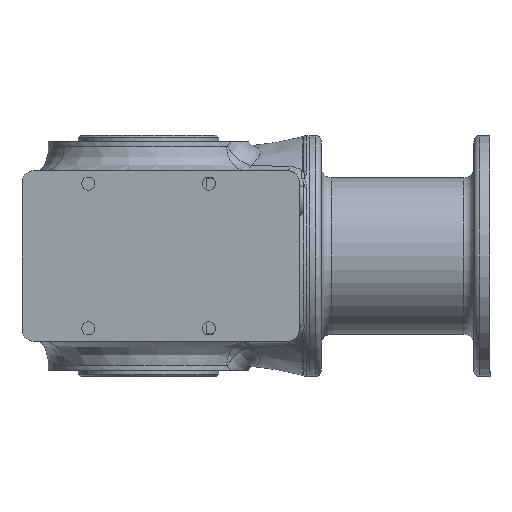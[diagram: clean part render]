
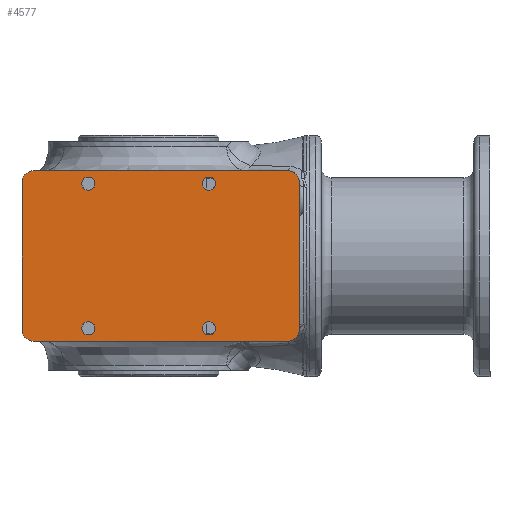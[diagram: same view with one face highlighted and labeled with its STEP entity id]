
A CAD part, front view. The second image highlights one B-rep face of the part: STEP entity #4577.
In plain terms, the highlighted planar face has unit normal (0, -1, 0).
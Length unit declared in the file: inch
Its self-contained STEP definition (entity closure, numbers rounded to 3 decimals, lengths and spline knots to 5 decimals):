
#156=LINE('',#9129,#253);
#176=LINE('',#11527,#273);
#177=LINE('',#11529,#274);
#178=LINE('',#11530,#275);
#253=VECTOR('',#5472,4.96063);
#273=VECTOR('',#5710,2.87402);
#274=VECTOR('',#5713,2.87402);
#275=VECTOR('',#5714,4.96063);
#604=PLANE('',#4952);
#706=FACE_BOUND('',#1338,.T.);
#707=FACE_BOUND('',#1339,.T.);
#708=FACE_BOUND('',#1340,.T.);
#709=FACE_BOUND('',#1341,.T.);
#980=FACE_OUTER_BOUND('',#1337,.T.);
#1337=EDGE_LOOP('',(#3517,#3518,#3519,#3520,#3521,#3522,#3523,#3524));
#1338=EDGE_LOOP('',(#3525));
#1339=EDGE_LOOP('',(#3526));
#1340=EDGE_LOOP('',(#3527));
#1341=EDGE_LOOP('',(#3528));
#1616=CIRCLE('',#4782,0.13085);
#1674=CIRCLE('',#4869,0.23622);
#1677=CIRCLE('',#4873,0.23622);
#1701=CIRCLE('',#4916,0.13085);
#1708=CIRCLE('',#4931,0.13085);
#1709=CIRCLE('',#4933,0.13085);
#1720=CIRCLE('',#4953,0.23622);
#1721=CIRCLE('',#4954,0.23622);
#1893=VERTEX_POINT('',#6564);
#2001=VERTEX_POINT('',#9099);
#2007=VERTEX_POINT('',#9127);
#2033=VERTEX_POINT('',#10250);
#2034=VERTEX_POINT('',#10252);
#2038=VERTEX_POINT('',#10306);
#2067=VERTEX_POINT('',#11149);
#2072=VERTEX_POINT('',#11197);
#2073=VERTEX_POINT('',#11200);
#2087=VERTEX_POINT('',#11523);
#2088=VERTEX_POINT('',#11524);
#2089=VERTEX_POINT('',#11526);
#2305=EDGE_CURVE('',#1893,#1893,#1616,.T.);
#2473=EDGE_CURVE('',#2007,#2001,#156,.T.);
#2522=EDGE_CURVE('',#2033,#2034,#1674,.T.);
#2528=EDGE_CURVE('',#2038,#2007,#1677,.T.);
#2576=EDGE_CURVE('',#2067,#2067,#1701,.T.);
#2588=EDGE_CURVE('',#2072,#2072,#1708,.T.);
#2589=EDGE_CURVE('',#2073,#2073,#1709,.T.);
#2618=EDGE_CURVE('',#2087,#2088,#1720,.T.);
#2619=EDGE_CURVE('',#2089,#2087,#176,.T.);
#2620=EDGE_CURVE('',#2001,#2089,#1721,.T.);
#2621=EDGE_CURVE('',#2034,#2038,#177,.T.);
#2622=EDGE_CURVE('',#2088,#2033,#178,.T.);
#3517=ORIENTED_EDGE('',*,*,#2618,.F.);
#3518=ORIENTED_EDGE('',*,*,#2619,.F.);
#3519=ORIENTED_EDGE('',*,*,#2620,.F.);
#3520=ORIENTED_EDGE('',*,*,#2473,.F.);
#3521=ORIENTED_EDGE('',*,*,#2528,.F.);
#3522=ORIENTED_EDGE('',*,*,#2621,.F.);
#3523=ORIENTED_EDGE('',*,*,#2522,.F.);
#3524=ORIENTED_EDGE('',*,*,#2622,.F.);
#3525=ORIENTED_EDGE('',*,*,#2576,.T.);
#3526=ORIENTED_EDGE('',*,*,#2305,.T.);
#3527=ORIENTED_EDGE('',*,*,#2588,.T.);
#3528=ORIENTED_EDGE('',*,*,#2589,.T.);
#4577=ADVANCED_FACE('',(#980,#706,#707,#708,#709),#604,.T.);
#4782=AXIS2_PLACEMENT_3D('',#6565,#5335,#5336);
#4869=AXIS2_PLACEMENT_3D('',#10253,#5531,#5532);
#4873=AXIS2_PLACEMENT_3D('',#10308,#5541,#5542);
#4916=AXIS2_PLACEMENT_3D('',#11150,#5629,#5630);
#4931=AXIS2_PLACEMENT_3D('',#11198,#5662,#5663);
#4933=AXIS2_PLACEMENT_3D('',#11201,#5666,#5667);
#4952=AXIS2_PLACEMENT_3D('',#11522,#5706,#5707);
#4953=AXIS2_PLACEMENT_3D('',#11525,#5708,#5709);
#4954=AXIS2_PLACEMENT_3D('',#11528,#5711,#5712);
#5335=DIRECTION('center_axis',(0.,1.,0.));
#5336=DIRECTION('ref_axis',(1.,0.,0.));
#5472=DIRECTION('',(-1.,0.,0.));
#5531=DIRECTION('center_axis',(0.,1.,0.));
#5532=DIRECTION('ref_axis',(0.707,0.,0.707));
#5541=DIRECTION('center_axis',(0.,1.,0.));
#5542=DIRECTION('ref_axis',(0.707,0.,-0.707));
#5629=DIRECTION('center_axis',(0.,1.,0.));
#5630=DIRECTION('ref_axis',(1.,0.,0.));
#5662=DIRECTION('center_axis',(0.,1.,0.));
#5663=DIRECTION('ref_axis',(1.,0.,0.));
#5666=DIRECTION('center_axis',(0.,1.,0.));
#5667=DIRECTION('ref_axis',(1.,0.,0.));
#5706=DIRECTION('center_axis',(0.,-1.,0.));
#5707=DIRECTION('ref_axis',(1.,0.,0.));
#5708=DIRECTION('center_axis',(0.,1.,0.));
#5709=DIRECTION('ref_axis',(-0.707,0.,0.707));
#5710=DIRECTION('',(0.,0.,1.));
#5711=DIRECTION('center_axis',(0.,1.,0.));
#5712=DIRECTION('ref_axis',(-0.707,0.,-0.707));
#5713=DIRECTION('',(0.,0.,-1.));
#5714=DIRECTION('',(1.,0.,0.));
#6564=CARTESIAN_POINT('',(0.5718,-2.34087,1.41719));
#6565=CARTESIAN_POINT('Origin',(0.44095,-2.34087,1.41719));
#9099=CARTESIAN_POINT('',(-2.98424,-2.34087,-1.67336));
#9127=CARTESIAN_POINT('',(1.97639,-2.34087,-1.67336));
#9129=CARTESIAN_POINT('',(2.21261,-2.34087,-1.67336));
#10250=CARTESIAN_POINT('',(1.97639,-2.34087,1.67309));
#10252=CARTESIAN_POINT('',(2.21261,-2.34087,1.43687));
#10253=CARTESIAN_POINT('Origin',(1.97639,-2.34087,1.43687));
#10306=CARTESIAN_POINT('',(2.21261,-2.34087,-1.43714));
#10308=CARTESIAN_POINT('Origin',(1.97639,-2.34087,-1.43714));
#11149=CARTESIAN_POINT('',(-1.7904,-2.34087,1.41719));
#11150=CARTESIAN_POINT('Origin',(-1.92125,-2.34087,1.41719));
#11197=CARTESIAN_POINT('',(0.5718,-2.34087,-1.41746));
#11198=CARTESIAN_POINT('Origin',(0.44095,-2.34087,-1.41746));
#11200=CARTESIAN_POINT('',(-1.7904,-2.34087,-1.41746));
#11201=CARTESIAN_POINT('Origin',(-1.92125,-2.34087,-1.41746));
#11522=CARTESIAN_POINT('Origin',(-3.02361,-2.34087,-0.00013));
#11523=CARTESIAN_POINT('',(-3.22046,-2.34087,1.43687));
#11524=CARTESIAN_POINT('',(-2.98424,-2.34087,1.67309));
#11525=CARTESIAN_POINT('Origin',(-2.98424,-2.34087,1.43687));
#11526=CARTESIAN_POINT('',(-3.22046,-2.34087,-1.43714));
#11527=CARTESIAN_POINT('',(-3.22046,-2.34087,-1.67336));
#11528=CARTESIAN_POINT('Origin',(-2.98424,-2.34087,-1.43714));
#11529=CARTESIAN_POINT('',(2.21261,-2.34087,-0.00013));
#11530=CARTESIAN_POINT('',(2.21261,-2.34087,1.67309));
